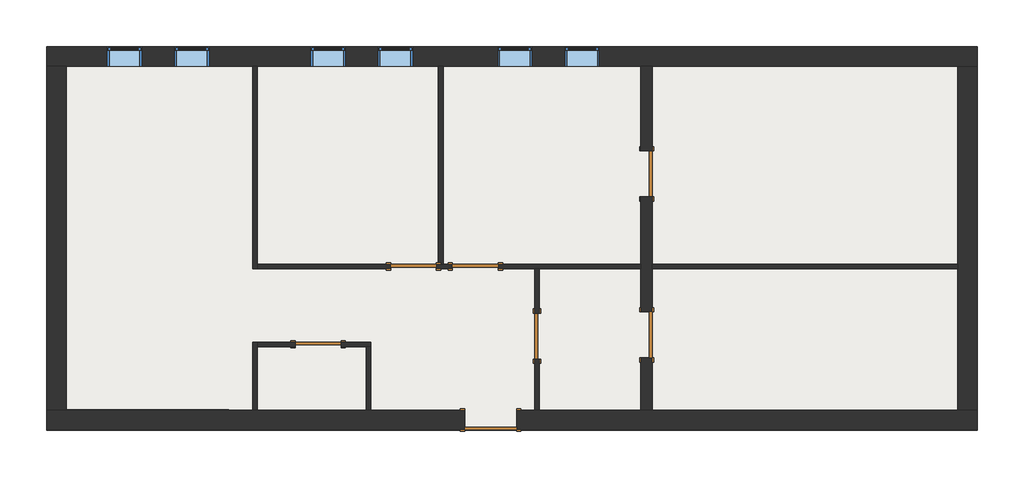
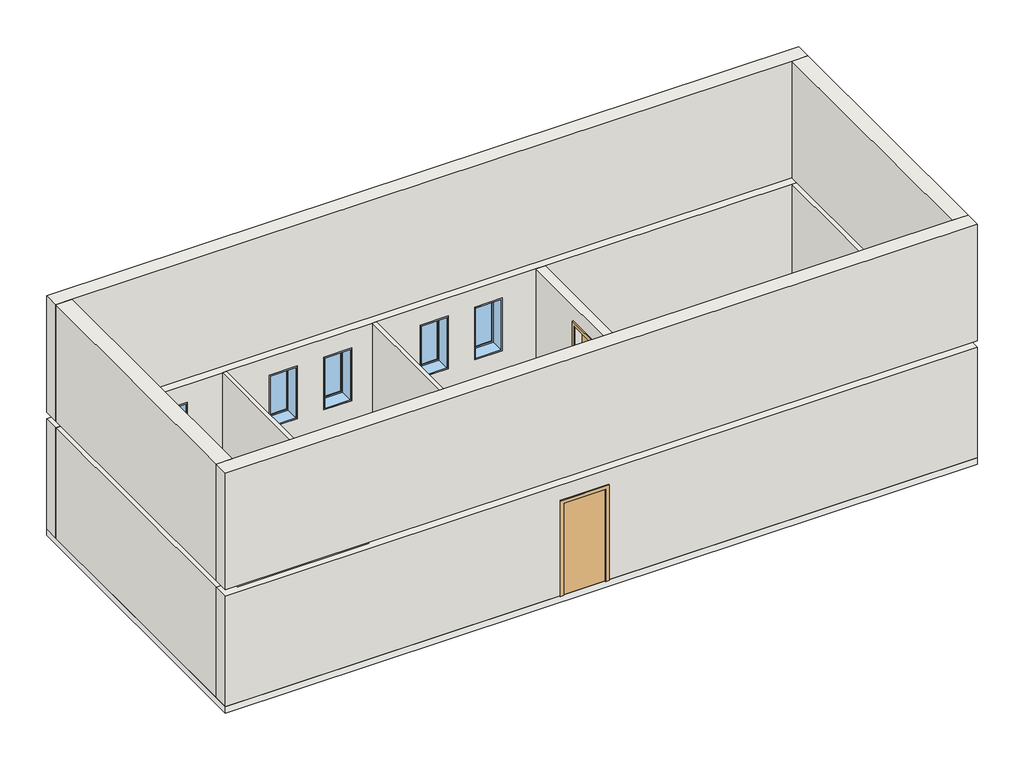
# One storey: 14 walls, 7 doors, 6 windows, 1 slab.
"""IFC4 building model written with IfcOpenShell, lengths in millimetres."""

from ifc_helpers import new_model, si_unit, frame, origin, origin_with_axes, place, context, project, spatial, polyline, outline, extrude, faceted_brep, transform, mapped, element, save
from components import door_526e4cd8, door_eee9776d, door_cbe18f88, door_70678a7c, window_2c28ef1d

model = new_model("IFC4")

# Units and contexts
model_context = context("Model", 3, world=origin())
ifc_project = project(units=[si_unit("LENGTHUNIT", "METRE", prefix="MILLI")], contexts=[model_context])

# Site, building, storey
site = spatial("IfcSite", under=ifc_project)
building = spatial("IfcBuilding", under=site)
storey = spatial("IfcBuildingStorey", under=building, Name="Уровень 1", Elevation=0.0)

# Doors
placement = place(None, origin())
door_shape = door_526e4cd8(model_context)
element("IfcDoor", 1, ObjectType="Одиночные-Щитовые : 0813 x 2134 мм", at=placement, inside=storey, context=model_context, shape_type="MappedRepresentation", body=[
    mapped(door_shape, transform((6313.5, 2635.0, 0.0), x_axis=(1.0, 0.0, 0.0), y_axis=(0.0, 1.0, 0.0), z_axis=(0.0, 0.0, 1.0))),
])
element("IfcDoor", 2, ObjectType="Одиночные-Щитовые : 0813 x 2134 мм", at=placement, inside=storey, context=model_context, shape_type="MappedRepresentation", body=[
    mapped(door_shape, transform((4628.5, 1260.0, 0.0), x_axis=(1.0, 0.0, 0.0), y_axis=(0.0, 1.0, 0.0), z_axis=(0.0, 0.0, 1.0))),
])
door_2_shape = door_eee9776d(model_context)
element("IfcDoor", 3, ObjectType="Одиночные-Щитовые : 0813 x 2134 мм", at=placement, inside=storey, context=model_context, shape_type="MappedRepresentation", body=[
    mapped(door_2_shape, transform((8495.0, 1406.5, 0.0), x_axis=(0.0, -1.0, 0.0), y_axis=(1.0, 0.0, 0.0), z_axis=(0.0, 0.0, 1.0))),
])
element("IfcDoor", 4, ObjectType="Одиночные-Щитовые : 0813 x 2134 мм", at=placement, inside=storey, context=model_context, shape_type="MappedRepresentation", body=[
    mapped(door_2_shape, transform((7406.5, 2635.0, 0.0), x_axis=(-1.0, 0.0, 0.0), y_axis=(0.0, -1.0, 0.0), z_axis=(0.0, 0.0, 1.0))),
])
door_3_shape = door_cbe18f88(model_context)
element("IfcDoor", 5, ObjectType="Одиночные-Щитовые : 0813 x 2134 мм", at=placement, inside=storey, context=model_context, shape_type="MappedRepresentation", body=[
    mapped(door_3_shape, transform((10435.0, 1426.5, 0.0), x_axis=(0.0, -1.0, 0.0), y_axis=(1.0, 0.0, 0.0), z_axis=(0.0, 0.0, 1.0))),
])
element("IfcDoor", 6, ObjectType="Одиночные-Щитовые : 0813 x 2134 мм", at=placement, inside=storey, context=model_context, shape_type="MappedRepresentation", body=[
    mapped(door_3_shape, transform((10435.0, 4273.5, 0.0), x_axis=(0.0, -1.0, 0.0), y_axis=(1.0, 0.0, 0.0), z_axis=(0.0, 0.0, 1.0))),
])
door_4_shape = door_70678a7c(model_context)
element("IfcDoor", 7, ObjectType="Одиночные-Щитовые : 0915 x 2134 мм", at=placement, inside=storey, context=model_context, shape_type="MappedRepresentation", body=[
    mapped(door_4_shape, transform((7677.5, -80.0, 0.0), x_axis=(1.0, 0.0, 0.0), y_axis=(0.0, 1.0, 0.0), z_axis=(0.0, 0.0, 1.0))),
])

# Slab
element("IfcSlab", 8, ObjectType="Типовой 150мм", at=placement, inside=storey, context=model_context, shape_type="SweptSolid", body=[
    extrude(outline(polyline([(-175.0, 6525.0), (16285.0, 6525.0), (16285.0, -255.0), (-175.0, -255.0), (-175.0, 6525.0)])), frame((0.0, 0.0, -150.0), z_axis=(0.0, 0.0, 1.0), x_axis=(1.0, 0.0, 0.0)), (0.0, 0.0, 1.0), 150.0),
])

# Walls
element("IfcWall", 9, ObjectType="Наружный - Трехслойные панели с утеплителем толщиной 350 мм", at=placement, inside=storey, context=model_context, shape_type="Brep", body=[
    faceted_brep([(16285.0, -255.0, 5400.0), (-175.0, -255.0, 5400.0), (-175.0, -255.0, 2700.0), (16285.0, -255.0, 2700.0), (-175.0, 95.0, 5400.0), (175.0, 95.0, 5400.0), (15935.0, 95.0, 5400.0), (16285.0, 95.0, 5400.0), (16285.0, 95.0, 2700.0), (15935.0, 95.0, 2700.0), (11375.0, 95.0, 2700.0), (11175.0, 95.0, 2700.0), (175.0, 95.0, 2700.0), (-175.0, 95.0, 2700.0)], [[[0, 1, 2, 3]], [[4, 5, 6, 7, 8, 9, 10, 11, 12, 13]], [[1, 0, 7, 6, 5, 4]], [[7, 0, 3, 8]], [[3, 2, 13, 12, 11, 10, 9, 8]], [[1, 4, 13, 2]]]),
    faceted_brep([(8135.0, -255.0, 2134.0), (8135.0, -255.0, 0.0), (16285.0, -255.0, 0.0), (16285.0, -255.0, 2550.0), (-175.0, -255.0, 2550.0), (-175.0, -255.0, 0.0), (7220.0, -255.0, 0.0), (7220.0, -255.0, 2134.0), (8135.0, 95.0, 0.0), (8135.0, 95.0, 2134.0), (7220.0, 95.0, 2134.0), (7220.0, 95.0, 0.0), (5555.0, 95.0, 0.0), (5475.0, 95.0, 0.0), (3555.0, 95.0, 0.0), (3475.0, 95.0, 0.0), (175.0, 95.0, 0.0), (-175.0, 95.0, 0.0), (-175.0, 95.0, 2550.0), (175.0, 95.0, 2550.0), (3475.0, 95.0, 2550.0), (3555.0, 95.0, 2550.0), (5475.0, 95.0, 2550.0), (5555.0, 95.0, 2550.0), (8455.0, 95.0, 2550.0), (8535.0, 95.0, 2550.0), (10335.0, 95.0, 2550.0), (10535.0, 95.0, 2550.0), (15935.0, 95.0, 2550.0), (16285.0, 95.0, 2550.0), (16285.0, 95.0, 0.0), (15935.0, 95.0, 0.0), (10535.0, 95.0, 0.0), (10335.0, 95.0, 0.0), (8535.0, 95.0, 0.0), (8455.0, 95.0, 0.0)], [[[0, 1, 2, 3, 4, 5, 6, 7]], [[8, 9, 10, 11, 12, 13, 14, 15, 16, 17, 18, 19, 20, 21, 22, 23, 24, 25, 26, 27, 28, 29, 30, 31, 32, 33, 34, 35]], [[5, 17, 16, 15, 14, 13, 12, 11, 6]], [[1, 8, 35, 34, 33, 32, 31, 30, 2]], [[9, 8, 1, 0]], [[10, 9, 0, 7]], [[11, 10, 7, 6]], [[2, 30, 29, 3]], [[4, 3, 29, 28, 27, 26, 25, 24, 23, 22, 21, 20, 19, 18]], [[17, 5, 4, 18]]]),
])
element("IfcWall", 10, ObjectType="Типовой - 200мм", at=placement, inside=storey, context=model_context, shape_type="Brep", body=[
    faceted_brep([(10535.0, 1833.0, 0.0), (10535.0, 2595.0, 0.0), (10535.0, 2675.0, 0.0), (10535.0, 3867.0, 0.0), (10535.0, 3867.0, 2134.0), (10535.0, 4680.0, 2134.0), (10535.0, 4680.0, 0.0), (10535.0, 6175.0, 0.0), (10535.0, 6175.0, 2550.0), (10535.0, 2675.0, 2550.0), (10535.0, 2595.0, 2550.0), (10535.0, 95.0, 2550.0), (10535.0, 95.0, 0.0), (10535.0, 1020.0, 0.0), (10535.0, 1020.0, 2134.0), (10535.0, 1833.0, 2134.0), (10335.0, 3867.0, 2134.0), (10335.0, 3867.0, 0.0), (10335.0, 2675.0, 0.0), (10335.0, 2595.0, 0.0), (10335.0, 1833.0, 0.0), (10335.0, 1833.0, 2134.0), (10335.0, 1020.0, 2134.0), (10335.0, 1020.0, 0.0), (10335.0, 95.0, 0.0), (10335.0, 95.0, 2550.0), (10335.0, 2595.0, 2550.0), (10335.0, 2675.0, 2550.0), (10335.0, 6175.0, 2550.0), (10335.0, 6175.0, 0.0), (10335.0, 4680.0, 0.0), (10335.0, 4680.0, 2134.0)], [[[0, 1, 2, 3, 4, 5, 6, 7, 8, 9, 10, 11, 12, 13, 14, 15]], [[16, 17, 18, 19, 20, 21, 22, 23, 24, 25, 26, 27, 28, 29, 30, 31]], [[24, 23, 13, 12]], [[30, 29, 7, 6]], [[20, 19, 18, 17, 3, 2, 1, 0]], [[11, 10, 9, 8, 28, 27, 26, 25]], [[12, 11, 25, 24]], [[8, 7, 29, 28]], [[14, 13, 23, 22]], [[15, 14, 22, 21]], [[0, 15, 21, 20]], [[4, 3, 17, 16]], [[5, 4, 16, 31]], [[6, 5, 31, 30]]]),
])
element("IfcWall", 11, ObjectType="Наружный - Трехслойные панели с утеплителем толщиной 350 мм", at=placement, inside=storey, context=model_context, shape_type="Brep", body=[
    faceted_brep([(16285.0, 6525.0, 0.0), (-175.0, 6525.0, 0.0), (-175.0, 6525.0, 2550.0), (16285.0, 6525.0, 2550.0), (8989.4055139, 6525.0, 2135.0), (8989.4055139, 6525.0, 915.0), (9599.4055139, 6525.0, 915.0), (9599.4055139, 6525.0, 2135.0), (7799.4055139, 6525.0, 2135.0), (7799.4055139, 6525.0, 915.0), (8409.4055139, 6525.0, 915.0), (8409.4055139, 6525.0, 2135.0), (5689.0, 6525.0, 2135.0), (5689.0, 6525.0, 915.0), (6299.0, 6525.0, 915.0), (6299.0, 6525.0, 2135.0), (4499.0, 6525.0, 2135.0), (4499.0, 6525.0, 915.0), (5109.0, 6525.0, 915.0), (5109.0, 6525.0, 2135.0), (2089.0, 6525.0, 2135.0), (2089.0, 6525.0, 915.0), (2699.0, 6525.0, 915.0), (2699.0, 6525.0, 2135.0), (899.0, 6525.0, 2135.0), (899.0, 6525.0, 915.0), (1509.0, 6525.0, 915.0), (1509.0, 6525.0, 2135.0), (-175.0, 6175.0, 0.0), (175.0, 6175.0, 0.0), (3475.0, 6175.0, 0.0), (3555.0, 6175.0, 0.0), (6755.0, 6175.0, 0.0), (6835.0, 6175.0, 0.0), (10335.0, 6175.0, 0.0), (10535.0, 6175.0, 0.0), (15935.0, 6175.0, 0.0), (16285.0, 6175.0, 0.0), (16285.0, 6175.0, 2550.0), (15935.0, 6175.0, 2550.0), (10535.0, 6175.0, 2550.0), (10335.0, 6175.0, 2550.0), (6835.0, 6175.0, 2550.0), (6755.0, 6175.0, 2550.0), (3555.0, 6175.0, 2550.0), (3475.0, 6175.0, 2550.0), (175.0, 6175.0, 2550.0), (-175.0, 6175.0, 2550.0), (8989.4055139, 6175.0, 915.0), (8989.4055139, 6175.0, 2135.0), (9599.4055139, 6175.0, 2135.0), (9599.4055139, 6175.0, 915.0), (7799.4055139, 6175.0, 915.0), (7799.4055139, 6175.0, 2135.0), (8409.4055139, 6175.0, 2135.0), (8409.4055139, 6175.0, 915.0), (5689.0, 6175.0, 915.0), (5689.0, 6175.0, 2135.0), (6299.0, 6175.0, 2135.0), (6299.0, 6175.0, 915.0), (4499.0, 6175.0, 915.0), (4499.0, 6175.0, 2135.0), (5109.0, 6175.0, 2135.0), (5109.0, 6175.0, 915.0), (2089.0, 6175.0, 915.0), (2089.0, 6175.0, 2135.0), (2699.0, 6175.0, 2135.0), (2699.0, 6175.0, 915.0), (899.0, 6175.0, 915.0), (899.0, 6175.0, 2135.0), (1509.0, 6175.0, 2135.0), (1509.0, 6175.0, 915.0)], [[[0, 1, 2, 3], [4, 5, 6, 7], [8, 9, 10, 11], [12, 13, 14, 15], [16, 17, 18, 19], [20, 21, 22, 23], [24, 25, 26, 27]], [[28, 29, 30, 31, 32, 33, 34, 35, 36, 37, 38, 39, 40, 41, 42, 43, 44, 45, 46, 47], [48, 49, 50, 51], [52, 53, 54, 55], [56, 57, 58, 59], [60, 61, 62, 63], [64, 65, 66, 67], [68, 69, 70, 71]], [[1, 0, 37, 36, 35, 34, 33, 32, 31, 30, 29, 28]], [[1, 28, 47, 2]], [[48, 5, 4, 49]], [[6, 51, 50, 7]], [[5, 48, 51, 6]], [[52, 9, 8, 53]], [[10, 55, 54, 11]], [[9, 52, 55, 10]], [[56, 13, 12, 57]], [[14, 59, 58, 15]], [[13, 56, 59, 14]], [[60, 17, 16, 61]], [[18, 63, 62, 19]], [[17, 60, 63, 18]], [[64, 21, 20, 65]], [[22, 67, 66, 23]], [[21, 64, 67, 22]], [[68, 25, 24, 69]], [[26, 71, 70, 27]], [[25, 68, 71, 26]], [[7, 50, 49, 4]], [[11, 54, 53, 8]], [[15, 58, 57, 12]], [[19, 62, 61, 16]], [[23, 66, 65, 20]], [[27, 70, 69, 24]], [[37, 0, 3, 38]], [[3, 2, 47, 46, 45, 44, 43, 42, 41, 40, 39, 38]]]),
    faceted_brep([(-175.0, 6525.0, 5400.0), (16285.0, 6525.0, 5400.0), (16285.0, 6525.0, 2700.0), (-175.0, 6525.0, 2700.0), (16285.0, 6175.0, 5400.0), (15935.0, 6175.0, 5400.0), (175.0, 6175.0, 5400.0), (-175.0, 6175.0, 5400.0), (-175.0, 6175.0, 2700.0), (175.0, 6175.0, 2700.0), (11175.0, 6175.0, 2700.0), (11375.0, 6175.0, 2700.0), (15935.0, 6175.0, 2700.0), (16285.0, 6175.0, 2700.0)], [[[0, 1, 2, 3]], [[4, 5, 6, 7, 8, 9, 10, 11, 12, 13]], [[1, 0, 7, 6, 5, 4]], [[7, 0, 3, 8]], [[1, 4, 13, 2]], [[3, 2, 13, 12, 11, 10, 9, 8]]]),
])
element("IfcWall", 12, ObjectType="Наружный - Трехслойные панели с утеплителем толщиной 350 мм", at=placement, inside=storey, context=model_context, shape_type="Brep", body=[
    faceted_brep([(-175.0, 6175.0, 0.0), (-175.0, 95.0, 0.0), (-175.0, 95.0, 2550.0), (-175.0, 6175.0, 2550.0), (175.0, 95.0, 0.0), (175.0, 100.0, 0.0), (175.0, 6175.0, 0.0), (175.0, 6175.0, 2550.0), (175.0, 95.0, 2550.0)], [[[0, 1, 2, 3]], [[4, 5, 6, 7, 8]], [[1, 0, 6, 5, 4]], [[6, 0, 3, 7]], [[3, 2, 8, 7]], [[1, 4, 8, 2]]]),
    faceted_brep([(-175.0, 95.0, 5400.0), (-175.0, 6175.0, 5400.0), (-175.0, 6175.0, 2700.0), (-175.0, 95.0, 2700.0), (175.0, 6175.0, 5400.0), (175.0, 95.0, 5400.0), (175.0, 95.0, 2700.0), (175.0, 6175.0, 2700.0)], [[[0, 1, 2, 3]], [[4, 5, 6, 7]], [[1, 0, 5, 4]], [[1, 4, 7, 2]], [[3, 2, 7, 6]], [[5, 0, 3, 6]]]),
])
element("IfcWall", 13, ObjectType="Внутренние - Перегородка гипсовых пазогребневых плит толщиной 80 мм", at=placement, inside=storey, context=model_context, shape_type="Brep", body=[
    faceted_brep([(3475.0, 6175.0, 0.0), (3475.0, 2595.0, 0.0), (3475.0, 2595.0, 2550.0), (3475.0, 6175.0, 2550.0), (3555.0, 6175.0, 0.0), (3555.0, 6175.0, 2550.0), (3555.0, 2675.0, 2550.0), (3555.0, 2595.0, 2550.0), (3555.0, 2595.0, 0.0), (3555.0, 2675.0, 0.0)], [[[0, 1, 2, 3]], [[4, 5, 6, 7, 8, 9]], [[1, 0, 4, 9, 8]], [[3, 2, 7, 6, 5]], [[0, 3, 5, 4]], [[2, 1, 8, 7]]]),
])
element("IfcWall", 14, ObjectType="Внутренние - Перегородка гипсовых пазогребневых плит толщиной 80 мм", at=placement, inside=storey, context=model_context, shape_type="Brep", body=[
    faceted_brep([(3555.0, 2595.0, 2550.0), (3555.0, 2595.0, 0.0), (5907.0, 2595.0, 0.0), (5907.0, 2595.0, 2134.0), (6720.0, 2595.0, 2134.0), (6720.0, 2595.0, 0.0), (7000.0, 2595.0, 0.0), (7000.0, 2595.0, 2134.0), (7813.0, 2595.0, 2134.0), (7813.0, 2595.0, 0.0), (8455.0, 2595.0, 0.0), (8535.0, 2595.0, 0.0), (10335.0, 2595.0, 0.0), (10335.0, 2595.0, 2550.0), (8535.0, 2595.0, 2550.0), (8455.0, 2595.0, 2550.0), (3555.0, 2675.0, 0.0), (3555.0, 2675.0, 2550.0), (6755.0, 2675.0, 2550.0), (6835.0, 2675.0, 2550.0), (10335.0, 2675.0, 2550.0), (10335.0, 2675.0, 0.0), (7813.0, 2675.0, 0.0), (7813.0, 2675.0, 2134.0), (7000.0, 2675.0, 2134.0), (7000.0, 2675.0, 0.0), (6835.0, 2675.0, 0.0), (6755.0, 2675.0, 0.0), (6720.0, 2675.0, 0.0), (6720.0, 2675.0, 2134.0), (5907.0, 2675.0, 2134.0), (5907.0, 2675.0, 0.0)], [[[0, 1, 2, 3, 4, 5, 6, 7, 8, 9, 10, 11, 12, 13, 14, 15]], [[16, 17, 18, 19, 20, 21, 22, 23, 24, 25, 26, 27, 28, 29, 30, 31]], [[1, 16, 31, 2]], [[5, 28, 27, 26, 25, 6]], [[9, 22, 21, 12, 11, 10]], [[17, 0, 15, 14, 13, 20, 19, 18]], [[1, 0, 17, 16]], [[29, 28, 5, 4]], [[30, 29, 4, 3]], [[31, 30, 3, 2]], [[7, 6, 25, 24]], [[8, 7, 24, 23]], [[9, 8, 23, 22]], [[13, 12, 21, 20]]]),
    faceted_brep([(15935.0, 2595.0, 0.0), (15935.0, 2595.0, 2550.0), (10535.0, 2595.0, 2550.0), (10535.0, 2595.0, 0.0), (15935.0, 2675.0, 2550.0), (15935.0, 2675.0, 0.0), (10535.0, 2675.0, 0.0), (10535.0, 2675.0, 2550.0)], [[[0, 1, 2, 3]], [[4, 5, 6, 7]], [[5, 0, 3, 6]], [[1, 4, 7, 2]], [[3, 2, 7, 6]], [[1, 0, 5, 4]]]),
])
element("IfcWall", 15, ObjectType="Внутренние - Перегородка гипсовых пазогребневых плит толщиной 80 мм", at=placement, inside=storey, context=model_context, shape_type="SweptSolid", body=[
    extrude(outline(polyline([(6835.0, 6175.0), (6835.0, 2675.0), (6755.0, 2675.0), (6755.0, 6175.0), (6835.0, 6175.0)])), origin_with_axes(), (0.0, 0.0, 1.0), 2550.0),
])
element("IfcWall", 16, ObjectType="Внутренние - Перегородка гипсовых пазогребневых плит толщиной 80 мм", at=placement, inside=storey, context=model_context, shape_type="Brep", body=[
    faceted_brep([(3555.0, 95.0, 0.0), (3555.0, 1220.0, 0.0), (3555.0, 1300.0, 0.0), (3555.0, 1300.0, 2550.0), (3555.0, 1220.0, 2550.0), (3555.0, 95.0, 2550.0), (3475.0, 95.0, 0.0), (3475.0, 95.0, 2550.0), (3475.0, 1300.0, 2550.0), (3475.0, 1300.0, 0.0)], [[[0, 1, 2, 3, 4, 5]], [[6, 7, 8, 9]], [[2, 1, 0, 6, 9]], [[5, 4, 3, 8, 7]], [[0, 5, 7, 6]], [[3, 2, 9, 8]]]),
])
element("IfcWall", 17, ObjectType="Внутренние - Перегородка гипсовых пазогребневых плит толщиной 80 мм", at=placement, inside=storey, context=model_context, shape_type="Brep", body=[
    faceted_brep([(5035.0, 1220.0, 2134.0), (5035.0, 1220.0, 0.0), (5475.0, 1220.0, 0.0), (5555.0, 1220.0, 0.0), (5555.0, 1220.0, 2550.0), (5475.0, 1220.0, 2550.0), (3555.0, 1220.0, 2550.0), (3555.0, 1220.0, 0.0), (4222.0, 1220.0, 0.0), (4222.0, 1220.0, 2134.0), (5555.0, 1300.0, 0.0), (5035.0, 1300.0, 0.0), (5035.0, 1300.0, 2134.0), (4222.0, 1300.0, 2134.0), (4222.0, 1300.0, 0.0), (3555.0, 1300.0, 0.0), (3555.0, 1300.0, 2550.0), (5555.0, 1300.0, 2550.0)], [[[0, 1, 2, 3, 4, 5, 6, 7, 8, 9]], [[10, 11, 12, 13, 14, 15, 16, 17]], [[8, 7, 15, 14]], [[3, 2, 1, 11, 10]], [[6, 5, 4, 17, 16]], [[7, 6, 16, 15]], [[12, 11, 1, 0]], [[13, 12, 0, 9]], [[14, 13, 9, 8]], [[4, 3, 10, 17]]]),
])
element("IfcWall", 18, ObjectType="Внутренние - Перегородка гипсовых пазогребневых плит толщиной 80 мм", at=placement, inside=storey, context=model_context, shape_type="SweptSolid", body=[
    extrude(outline(polyline([(5555.0, 1220.0), (5555.0, 95.0), (5475.0, 95.0), (5475.0, 1220.0), (5555.0, 1220.0)])), origin_with_axes(), (0.0, 0.0, 1.0), 2550.0),
])
element("IfcWall", 19, ObjectType="Внутренние - Перегородка гипсовых пазогребневых плит толщиной 80 мм", at=placement, inside=storey, context=model_context, shape_type="SweptSolid", body=[
    extrude(outline(polyline([(1000.0, 2134.0), (1000.0, 0.0), (95.0, 0.0), (95.0, 2550.0), (2595.0, 2550.0), (2595.0, 0.0), (1813.0, 0.0), (1813.0, 2134.0), (1000.0, 2134.0)])), frame((8455.0, 0.0, 0.0), z_axis=(1.0, 0.0, 0.0), x_axis=(0.0, 1.0, 0.0)), (0.0, 0.0, 1.0), 80.0),
])
element("IfcWall", 20, ObjectType="Наружный - Трехслойные панели с утеплителем толщиной 350 мм", at=placement, inside=storey, context=model_context, shape_type="Brep", body=[
    faceted_brep([(16285.0, 95.0, 0.0), (16285.0, 6175.0, 0.0), (16285.0, 6175.0, 2550.0), (16285.0, 95.0, 2550.0), (15935.0, 6175.0, 0.0), (15935.0, 2675.0, 0.0), (15935.0, 2595.0, 0.0), (15935.0, 95.0, 0.0), (15935.0, 95.0, 2550.0), (15935.0, 2595.0, 2550.0), (15935.0, 2675.0, 2550.0), (15935.0, 6175.0, 2550.0)], [[[0, 1, 2, 3]], [[4, 5, 6, 7, 8, 9, 10, 11]], [[1, 0, 7, 6, 5, 4]], [[7, 0, 3, 8]], [[1, 4, 11, 2]], [[3, 2, 11, 10, 9, 8]]]),
    faceted_brep([(16285.0, 6175.0, 5400.0), (16285.0, 95.0, 5400.0), (16285.0, 95.0, 2700.0), (16285.0, 6175.0, 2700.0), (15935.0, 95.0, 5400.0), (15935.0, 6175.0, 5400.0), (15935.0, 6175.0, 2700.0), (15935.0, 95.0, 2700.0)], [[[0, 1, 2, 3]], [[4, 5, 6, 7]], [[1, 0, 5, 4]], [[1, 4, 7, 2]], [[5, 0, 3, 6]], [[3, 2, 7, 6]]]),
])
element("IfcWall", 21, ObjectType="Типовой - 200мм", at=placement, inside=storey, context=model_context, shape_type="Brep", body=[
    faceted_brep([(175.0, -100.0, 0.0), (3048.0, -100.0, 0.0), (3048.0, -100.0, 4000.0), (175.0, -100.0, 4000.0), (175.0, 100.0, 0.0), (175.0, 100.0, 4000.0), (3048.0, 100.0, 4000.0), (3048.0, 100.0, 0.0), (175.0, 95.0, 0.0)], [[[0, 1, 2, 3]], [[4, 5, 6, 7]], [[1, 0, 8, 4, 7]], [[2, 1, 7, 6]], [[3, 2, 6, 5]], [[0, 3, 5, 4, 8]]]),
])
element("IfcWall", 22, ObjectType="Типовой - 200мм", at=placement, inside=storey, context=model_context, shape_type="Brep", body=[
    faceted_brep([(175.0, -100.0, 0.0), (3048.0, -100.0, 0.0), (3048.0, -100.0, 4000.0), (175.0, -100.0, 4000.0), (175.0, 100.0, 0.0), (175.0, 100.0, 4000.0), (3048.0, 100.0, 4000.0), (3048.0, 100.0, 0.0), (175.0, 95.0, 0.0)], [[[0, 1, 2, 3]], [[4, 5, 6, 7]], [[1, 0, 8, 4, 7]], [[2, 1, 7, 6]], [[3, 2, 6, 5]], [[0, 3, 5, 4, 8]]]),
])

# Windows
window_shape = window_2c28ef1d(model_context)
element("IfcWindow", 23, ObjectType="Фиксированные : 0610 x 1220 мм", at=placement, inside=storey, context=model_context, shape_type="MappedRepresentation", body=[
    mapped(window_shape, transform((1204.0, 6337.0, 0.0), x_axis=(1.0, 0.0, 0.0), y_axis=(0.0, 1.0, 0.0), z_axis=(0.0, 0.0, 1.0))),
])
element("IfcWindow", 24, ObjectType="Фиксированные : 0610 x 1220 мм", at=placement, inside=storey, context=model_context, shape_type="MappedRepresentation", body=[
    mapped(window_shape, transform((2394.0, 6337.0, 0.0), x_axis=(1.0, 0.0, 0.0), y_axis=(0.0, 1.0, 0.0), z_axis=(0.0, 0.0, 1.0))),
])
element("IfcWindow", 25, ObjectType="Фиксированные : 0610 x 1220 мм", at=placement, inside=storey, context=model_context, shape_type="MappedRepresentation", body=[
    mapped(window_shape, transform((4804.0, 6337.0, 0.0), x_axis=(1.0, 0.0, 0.0), y_axis=(0.0, 1.0, 0.0), z_axis=(0.0, 0.0, 1.0))),
])
element("IfcWindow", 26, ObjectType="Фиксированные : 0610 x 1220 мм", at=placement, inside=storey, context=model_context, shape_type="MappedRepresentation", body=[
    mapped(window_shape, transform((5994.0, 6337.0, 0.0), x_axis=(1.0, 0.0, 0.0), y_axis=(0.0, 1.0, 0.0), z_axis=(0.0, 0.0, 1.0))),
])
element("IfcWindow", 27, ObjectType="Фиксированные : 0610 x 1220 мм", at=placement, inside=storey, context=model_context, shape_type="MappedRepresentation", body=[
    mapped(window_shape, transform((8104.4055139, 6337.0, 0.0), x_axis=(1.0, 0.0, 0.0), y_axis=(0.0, 1.0, 0.0), z_axis=(0.0, 0.0, 1.0))),
])
element("IfcWindow", 28, ObjectType="Фиксированные : 0610 x 1220 мм", at=placement, inside=storey, context=model_context, shape_type="MappedRepresentation", body=[
    mapped(window_shape, transform((9294.4055139, 6337.0, 0.0), x_axis=(1.0, 0.0, 0.0), y_axis=(0.0, 1.0, 0.0), z_axis=(0.0, 0.0, 1.0))),
])

save(model, "model.ifc")
